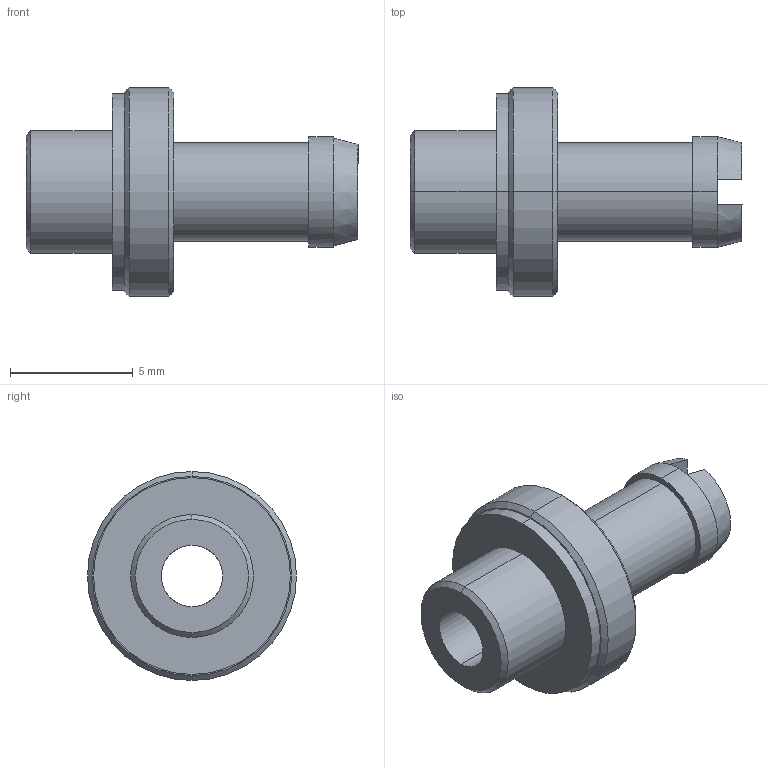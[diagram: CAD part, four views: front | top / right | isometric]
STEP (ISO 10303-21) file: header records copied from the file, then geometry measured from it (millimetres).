
FILE_DESCRIPTION (( 'STEP AP203' ), '1' );
FILE_NAME ('110623.STEP', '2021-10-22T03:57:20', ( '' ), ( '' ), 'SwSTEP 2.0', 'SolidWorks 2018', '' );
FILE_SCHEMA (( 'CONFIG_CONTROL_DESIGN' ));
Length unit declared in the file: millimetre
Products named in the file (1): 110623
Bounding box: 13.5 x 8.5 x 8.5 mm (x, y, z)
Volume: 233.6 mm3; surface area: 512.3 mm2
Topology: 2 solids, 2 shells, 39 faces, 86 edges, 54 vertices
Faces by surface type: cylinder 16, plane 15, cone 8
Entity records: 1175 total; most frequent: DIRECTION 210, CARTESIAN_POINT 192, ORIENTED_EDGE 172, AXIS2_PLACEMENT_3D 88, EDGE_CURVE 86, VERTEX_POINT 54, CIRCLE 48, EDGE_LOOP 46
